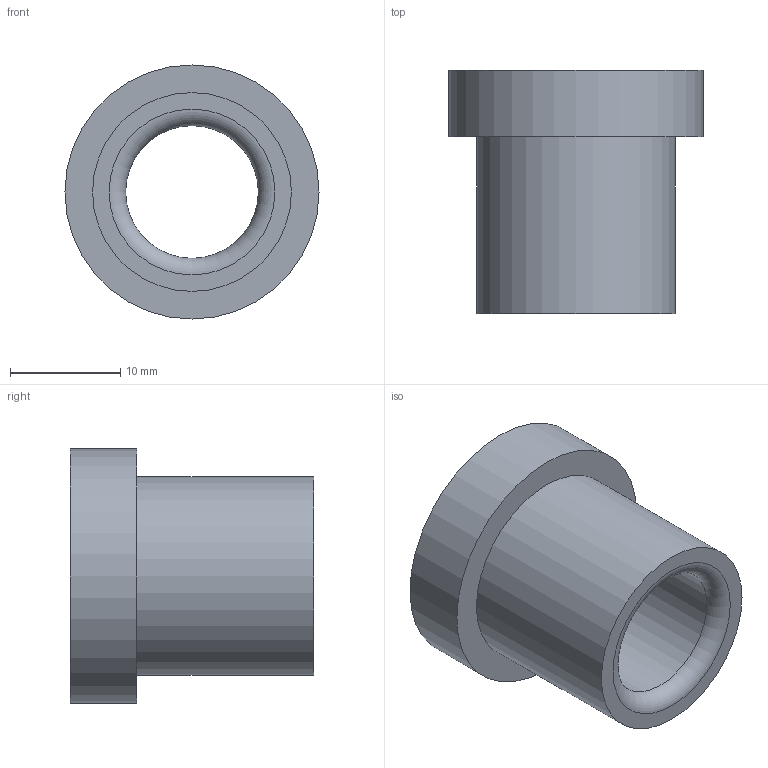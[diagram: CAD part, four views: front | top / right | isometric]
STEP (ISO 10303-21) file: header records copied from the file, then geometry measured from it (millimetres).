
FILE_DESCRIPTION(/* description */ ('STEP AP214'),/* implementation_level */ '2;1');
FILE_NAME(/* name */ '03_12_17838',/* time_stamp */ '2023-06-15T11:35:22+02:00',/* author */ ('License CC BY-ND 4.0'),/* organization */ ('CADENAS'),/* preprocessor_version */ 'ST-DEVELOPER v19.3',/* originating_system */ 'PARTsolutions',/* authorisation */ ' ');
FILE_SCHEMA (('AUTOMOTIVE_DESIGN {1 0 10303 214 3 1 1}'));
Length unit declared in the file: millimetre
Products named in the file (1): VA_Bushing_17838
Bounding box: 23 x 22 x 23 mm (x, y, z)
Volume: 3985.9 mm3; surface area: 2733 mm2
Topology: 1 solids, 1 shells, 10 faces, 16 edges, 10 vertices
Faces by surface type: cylinder 4, plane 4, torus 2
Full cylindrical faces by diameter (mm): 12 x1, 12.6 x1, 18 x1, 23 x1
Entity records: 302 total; most frequent: DIRECTION 42, CARTESIAN_POINT 31, AXIS2_PLACEMENT_3D 21, ORIENTED_EDGE 20, EDGE_LOOP 20, FACE_BOUND 20, EDGE_CURVE 10, VERTEX_POINT 10
